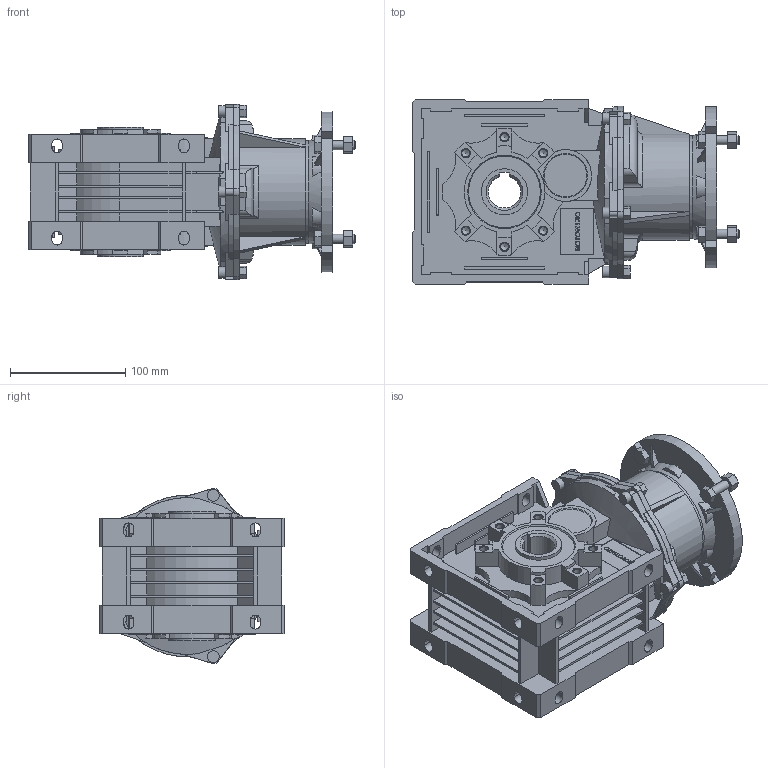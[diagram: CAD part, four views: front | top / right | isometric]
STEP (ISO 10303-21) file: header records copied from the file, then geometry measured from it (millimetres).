
FILE_DESCRIPTION(/* description */ ('STEP AP214'),/* implementation_level */ '2;1');
FILE_NAME(/* name */ 'BA52C90 B14280000NO0NO----(---------------)',/* time_stamp */ '2024-10-30T09:45:53+01:00',/* author */ ('License CC BY-ND 4.0'),/* organization */ ('CADENAS'),/* preprocessor_version */ 'ST-DEVELOPER v19.3',/* originating_system */ 'PARTsolutions',/* authorisation */ ' ');
FILE_SCHEMA (('AUTOMOTIVE_DESIGN {1 0 10303 214 3 1 1}'));
Length unit declared in the file: millimetre
Products named in the file (6): BA52C90 B14280000NO0NO----(---------------); A52-U-40; A52-28-C; A52-BA-24; A52-90 B14-B; BA52-24
Assembly tree (5 placements, depth 2):
  BA52C90 B14280000NO0NO----(---------------)
    A52-U-40
    A52-28-C
    A52-BA-24
    A52-90 B14-B
    BA52-24
Bounding box: 284 x 160 x 151.79 mm (x, y, z)
Volume: 2265661.6 mm3; surface area: 457184.3 mm2
Topology: 5 solids, 5 shells, 961 faces, 2609 edges, 1725 vertices
Faces by surface type: plane 680, cylinder 215, cone 57, torus 9
Full cylindrical faces by diameter (mm): 3.627 x3, 6 x5, 6.647 x12, 8 x8, 10 x5, 13 x6, 35 x1, 40 x2, 52 x2, 57.5 x1, 62 x2, 89 x1, 95 x1, 128 x2
Entity records: 36481 total; most frequent: CARTESIAN_POINT 5611, ORIENTED_EDGE 4998, DIRECTION 4860, EDGE_CURVE 2499, LINE 1808, VECTOR 1808, VERTEX_POINT 1712, AXIS2_PLACEMENT_3D 1526
